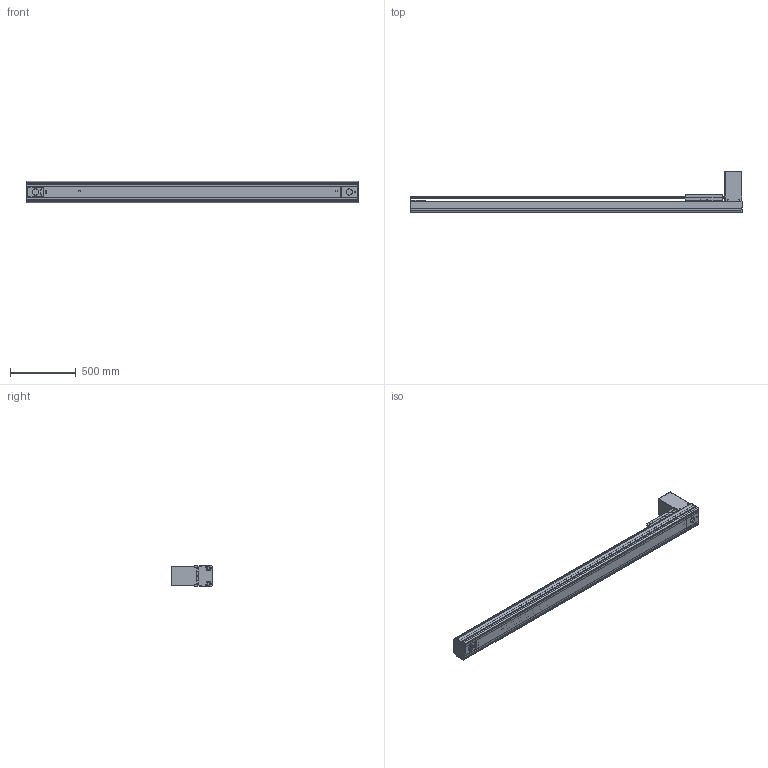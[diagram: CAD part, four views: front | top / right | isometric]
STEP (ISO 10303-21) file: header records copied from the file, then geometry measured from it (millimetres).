
FILE_DESCRIPTION((''),'2;1');
FILE_NAME('BE50G-BT-L19N-K5_IGS_PRT','2017-06-18T',(' '),(''),'PRO/ENGINEER BY PARAMETRIC TECHNOLOGY CORPORATION, 2015030','PRO/ENGINEER BY PARAMETRIC TECHNOLOGY CORPORATION, 2015030','');
FILE_SCHEMA(('CONFIG_CONTROL_DESIGN'));
Products named in the file (1): BE50G-BT-L19N-K5_IGS_PRT
Bounding box: 2520 x 309 x 160 mm (x, y, z)
Volume: 9731957 mm3; surface area: 4443800.3 mm2
Topology: 9 solids, 254 shells, 2081 faces, 6017 edges, 4116 vertices
Faces by surface type: cylinder 1073, plane 799, cone 166, sphere 23, torus 20
Entity records: 72222 total; most frequent: CARTESIAN_POINT 16827, DIRECTION 11513, ORIENTED_EDGE 11066, EDGE_CURVE 5943, AXIS2_PLACEMENT_3D 4345, VERTEX_POINT 4116, VECTOR 2823, LINE 2823
